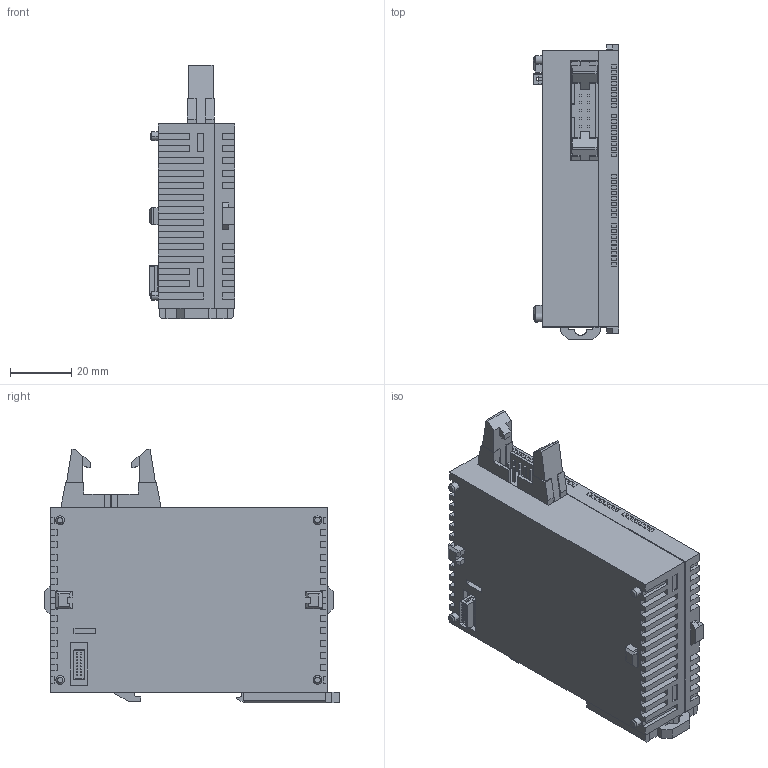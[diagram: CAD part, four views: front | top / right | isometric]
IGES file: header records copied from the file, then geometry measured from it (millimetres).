
Start section: SolidWorks IGES file using analytic representation for surfaces
Global section: file name: C:\catalog\FP0R_catalog\afp0re8x\afp0re8x.IGS; native system: SolidWorks 2010; preprocessor: SolidWorks 2010; author: ek1676; date: 130628.143645; units: millimetre
Bounding box: 28 x 96.05 x 82.7 mm (x, y, z)
Surface area: 25475.9 mm2 (no closed solid volume)
Topology: 0 solids, 0 shells, 833 faces, 5132 edges, 5132 vertices
Faces by surface type: bspline 792, revolution 41
